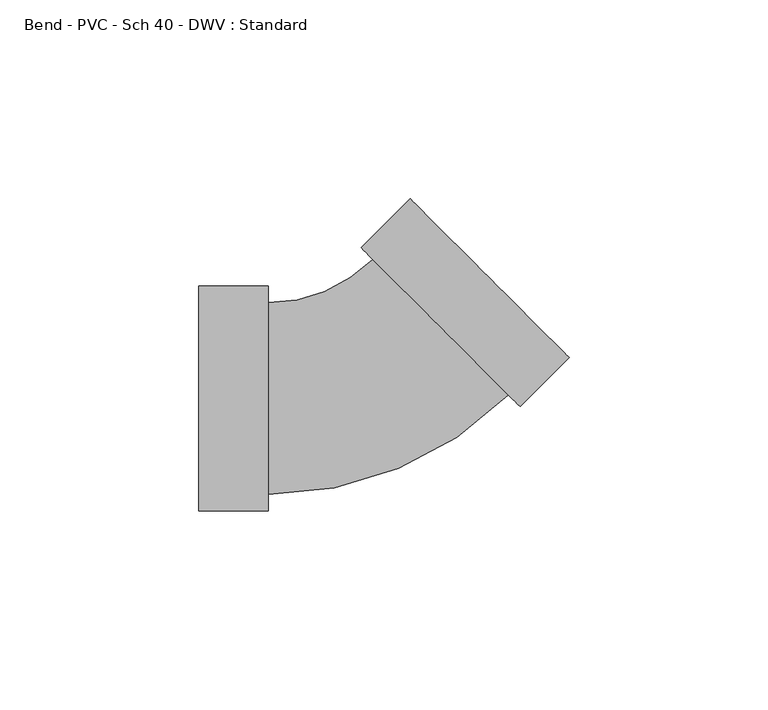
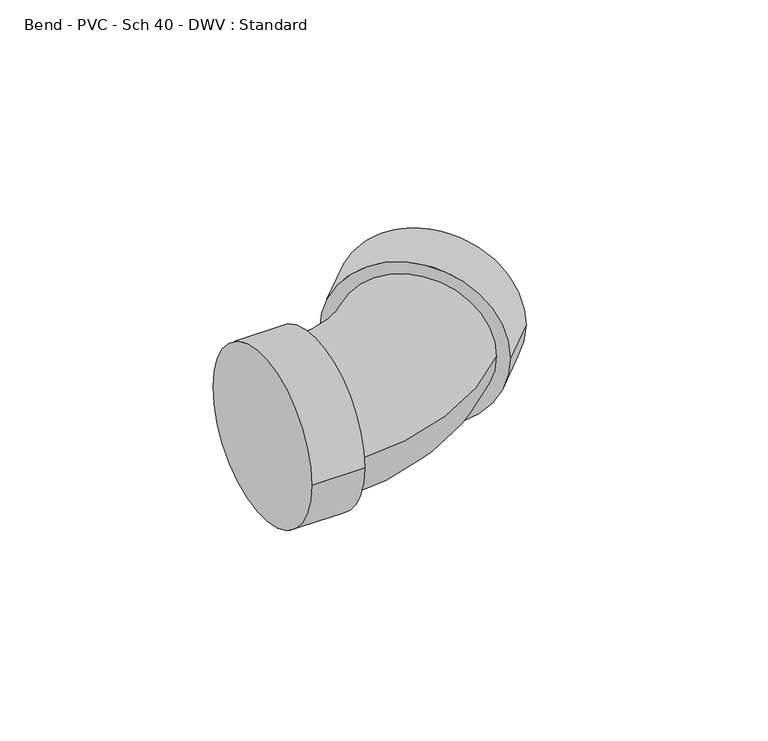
"""IFC4 building model written with IfcOpenShell, lengths in millimetres: pipe fitting geometry, Bend - PVC - Sch 40 - DWV : Standard."""

from ifc_helpers import new_model, si_unit, point, frame, origin, place, context, project, spatial, circle_curve, ellipse_curve, trimmed, source, transform, mapped, element, save
from ifc_brep_helpers import plane_surface, cylinder_surface, revolved_surface, advanced_brep


def bend_pvc_sch_40_dwv_standard_727fa454(model_context):
    return source(origin(), model_context, "Body", "AdvancedBrep", [
        advanced_brep(
        [(-42.8498, -28.2829, 0.0), (-42.8498, 28.2829, 0.0), (-25.4, -28.2829, 0.0), (-25.4, 28.2829, 0.0), (-25.4, -24.13, 0.0), (-25.4, 24.13, 0.0), (0.8976851, 35.0230076, 0.0), (35.0229901, 0.8983661, 0.0), (37.9595624, -2.0381491, 0.0), (-2.0388872, 37.9595228, 0.0), (50.2983144, 10.3008428, 0.0), (10.2998647, 50.2985147, 0.0)],
        [
            (0, 1, circle_curve(frame((-42.8498, 0.0, 0.0), z_axis=(-1.0, 0.0, 0.0), x_axis=(0.0, 1.0, 0.0)), 28.2829)),
            (1, 0, circle_curve(frame((-42.8498, 0.0, 0.0), z_axis=(-1.0, 0.0, 0.0), x_axis=(0.0, 1.0, 0.0)), 28.2829)),
            (2, 3, circle_curve(frame((-25.4, 0.0, 0.0), z_axis=(1.0, 0.0, 0.0), x_axis=(0.0, 1.0, 0.0)), 28.2829)),
            (3, 2, circle_curve(frame((-25.4, 0.0, 0.0), z_axis=(1.0, 0.0, 0.0), x_axis=(0.0, 1.0, 0.0)), 28.2829)),
            (4, 5, circle_curve(frame((-25.4, 0.0, 0.0), z_axis=(-1.0, 0.0, 0.0), x_axis=(0.0, 1.0, 0.0)), 24.13)),
            (5, 4, circle_curve(frame((-25.4, 0.0, 0.0), z_axis=(-1.0, 0.0, 0.0), x_axis=(0.0, 1.0, 0.0)), 24.13)),
            (0, 2),
            (3, 1),
            (6, 5, circle_curve(frame((-25.4, 61.3201814, 0.0), z_axis=(0.0, 0.0, -1.0), x_axis=(0.0, -1.0, 0.0)), 37.1901814)),
            (4, 7, circle_curve(frame((-25.4, 61.3201814, 0.0), z_axis=(0.0, 0.0, 1.0), x_axis=(0.0, -1.0, 0.0)), 85.4501814)),
            (7, 6, circle_curve(frame((17.9603376, 17.9606869, 0.0), z_axis=(-0.7070999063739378, -0.7071136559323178, 0.0), x_axis=(-0.7071136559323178, 0.7070999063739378, 0.0)), 24.13)),
            (6, 7, circle_curve(frame((17.9603376, 17.9606869, 0.0), z_axis=(-0.7070999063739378, -0.7071136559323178, 0.0), x_axis=(-0.7071136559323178, 0.7070999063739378, 0.0)), 24.13)),
            (8, 9, circle_curve(frame((17.9603376, 17.9606869, 0.0), z_axis=(-0.7070999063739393, -0.7071136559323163, 0.0), x_axis=(-0.7071136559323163, 0.7070999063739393, 0.0)), 28.2829)),
            (9, 8, circle_curve(frame((17.9603376, 17.9606869, 0.0), z_axis=(-0.7070999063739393, -0.7071136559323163, 0.0), x_axis=(-0.7071136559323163, 0.7070999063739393, 0.0)), 28.2829)),
            (10, 11, circle_curve(frame((30.2990896, 30.2996787, 0.0), z_axis=(0.7070999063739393, 0.7071136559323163, 0.0), x_axis=(-0.7071136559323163, 0.7070999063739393, 0.0)), 28.2829)),
            (11, 10, circle_curve(frame((30.2990896, 30.2996787, 0.0), z_axis=(0.7070999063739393, 0.7071136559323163, 0.0), x_axis=(-0.7071136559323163, 0.7070999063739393, 0.0)), 28.2829)),
            (8, 10),
            (11, 9),
        ],
        [
            plane_surface(frame((-42.8498, 0.0, 0.0), z_axis=(-1.0, 0.0, 0.0), x_axis=(0.0, 0.0, 1.0))),
            plane_surface(frame((-25.4, 0.0, 0.0), z_axis=(1.0, 0.0, 0.0), x_axis=(0.0, 0.0, 1.0))),
            cylinder_surface(frame((-42.8498, 0.0, 0.0), z_axis=(-1.0, 0.0, 0.0), x_axis=(0.0, 1.0, 0.0)), 28.2829),
            revolved_surface(trimmed(ellipse_curve(frame((-25.4, 0.0, 0.0), z_axis=(-1.0, 0.0, 0.0), x_axis=(0.0, 1.0, 0.0)), 24.13, 24.13), [point((-25.4, -24.13, 0.0))], [point((-25.4, 24.13, 0.0))], True, "CARTESIAN"), (-25.4, 61.3201814, 0.0), (0.0, 0.0, 1.0)),
            revolved_surface(trimmed(ellipse_curve(frame((-25.4, 0.0, 0.0), z_axis=(-1.0, 0.0, 0.0), x_axis=(0.0, 1.0, 0.0)), 24.13, 24.13), [point((-25.4, 24.13, 0.0))], [point((-25.4, -24.13, 0.0))], True, "CARTESIAN"), (-25.4, 61.3201814, 0.0), (0.0, 0.0, 1.0)),
            plane_surface(frame((17.9603376, 17.9606869, 0.0), z_axis=(-0.7070999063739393, -0.7071136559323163, 0.0), x_axis=(0.0, 0.0, 1.0))),
            plane_surface(frame((30.2990896, 30.2996787, 0.0), z_axis=(0.7070999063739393, 0.7071136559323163, 0.0), x_axis=(0.0, 0.0, 1.0))),
            cylinder_surface(frame((17.9603376, 17.9606869, 0.0), z_axis=(-0.7070999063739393, -0.7071136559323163, 0.0), x_axis=(-0.7071136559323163, 0.7070999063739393, 0.0)), 28.2829),
        ],
        [
            (0, [[1, 2]]),
            (1, [[3, 4], [5, 6]]),
            (2, [[-1, 7, -4, 8]]),
            (2, [[-2, -8, -3, -7]]),
            (3, [[9, -5, 10, 11]]),
            (4, [[-9, 12, -10, -6]]),
            (5, [[13, 14], [-11, -12]]),
            (6, [[15, 16]]),
            (7, [[-13, 17, -16, 18]]),
            (7, [[-14, -18, -15, -17]]),
        ],
    ),
    ])


if __name__ == "__main__":
    model = new_model("IFC4")
    model_context = context("Model", 3, world=origin())
    ifc_project = project(units=[si_unit("LENGTHUNIT", "METRE", prefix="MILLI")], contexts=[model_context])
    site = spatial("IfcSite", under=ifc_project)
    building = spatial("IfcBuilding", under=site)
    placement = place(None, origin())
    bend_pvc_sch_40_dwv_standard_shape = bend_pvc_sch_40_dwv_standard_727fa454(model_context)
    element("IfcPipeFitting", 1, ObjectType="Bend - PVC - Sch 40 - DWV : Standard", at=placement, inside=building, context=model_context, shape_type="MappedRepresentation", body=[
        mapped(bend_pvc_sch_40_dwv_standard_shape, transform((0.0, 0.0, 0.0), x_axis=(1.0, 0.0, 0.0), y_axis=(0.0, 1.0, 0.0), z_axis=(0.0, 0.0, 1.0))),
    ])
    save(model, "model.ifc")
